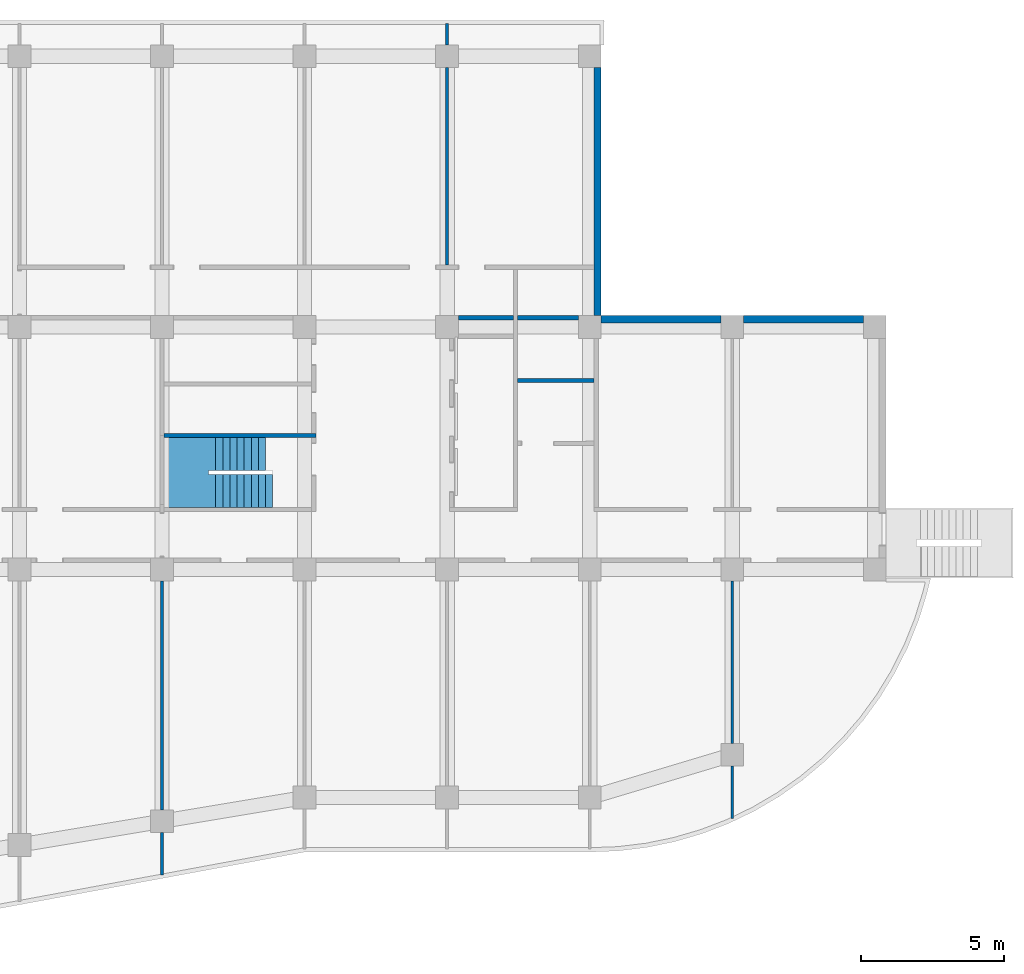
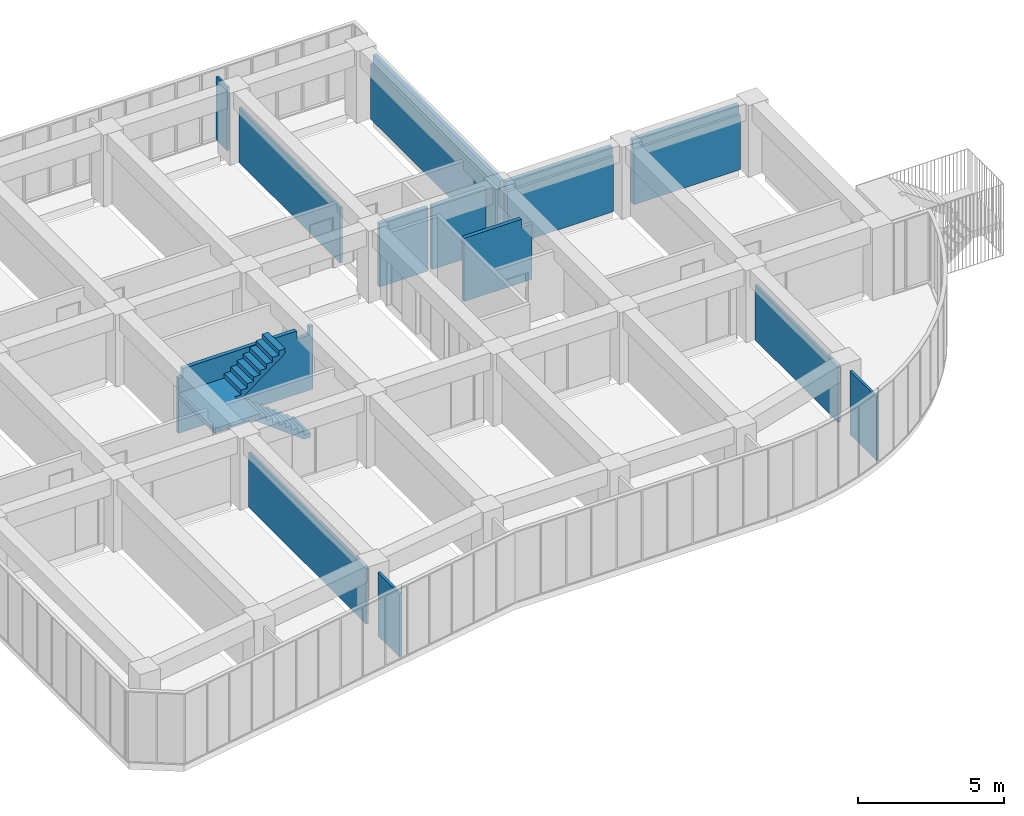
# One storey, part 5 of 5: 9 walls, 1 stair.
"""IFC2X3 building model written with IfcOpenShell, lengths in millimetres."""

from ifc_helpers import new_model, entity, si_unit, converted_unit, derived_unit, money_unit, direction, frame, origin_with_axes, place, context, subcontext, project, spatial, faceted_brep, material, material_list, type_object, element, save


model = new_model("IFC2X3")

# Units and contexts
model_context = context("Model", 3, precision=0.01, world=origin_with_axes(), true_north=direction((0.0, 1.0)))
body_context = subcontext(model_context, "Body", "Model", "MODEL_VIEW")
ifc_project = project(units=[si_unit("LENGTHUNIT", "METRE", prefix="MILLI"), si_unit("AREAUNIT", "SQUARE_METRE"), si_unit("VOLUMEUNIT", "CUBIC_METRE"), converted_unit("PLANEANGLEUNIT", "DEGREE", entity("IfcPlaneAngleMeasure", 0.0174532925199), si_unit("PLANEANGLEUNIT", "RADIAN"), dimensions=[0, 0, 0, 0, 0, 0, 0]), si_unit("SOLIDANGLEUNIT", "STERADIAN"), money_unit("JPY"), converted_unit("TIMEUNIT", "Year", entity("IfcTimeMeasure", 31556926.0), si_unit("TIMEUNIT", "SECOND"), dimensions=[0, 0, 1, 0, 0, 0, 0]), si_unit("MASSUNIT", "GRAM", prefix="KILO"), si_unit("THERMODYNAMICTEMPERATUREUNIT", "DEGREE_CELSIUS"), si_unit("LUMINOUSINTENSITYUNIT", "LUMEN"), si_unit("ENERGYUNIT", "JOULE", prefix="MEGA"), derived_unit("THERMALCONDUCTANCEUNIT", [(si_unit("POWERUNIT", "WATT"), 1), (si_unit("LENGTHUNIT", "METRE"), -1), (si_unit("THERMODYNAMICTEMPERATUREUNIT", "KELVIN"), -1)]), derived_unit("SPECIFICHEATCAPACITYUNIT", [(si_unit("ENERGYUNIT", "JOULE"), 1), (si_unit("MASSUNIT", "GRAM", prefix="KILO"), -1), (si_unit("THERMODYNAMICTEMPERATUREUNIT", "KELVIN"), -1)]), derived_unit("MASSDENSITYUNIT", [(si_unit("MASSUNIT", "GRAM", prefix="KILO"), 1), (si_unit("VOLUMEUNIT", "CUBIC_METRE"), -1)])], contexts=[model_context])

# Site, building, storey
site_placement = place(None, origin_with_axes())
site = spatial("IfcSite", under=ifc_project, at=site_placement, Name="サイト", CompositionType="ELEMENT")
building_placement = place(site_placement, origin_with_axes())
building = spatial("IfcBuilding", under=site, at=building_placement, Name="建築", CompositionType="ELEMENT")
storey_placement = place(building_placement, frame((0.0, 0.0, 9000.0), z_axis=(0.0, 0.0, 1.0), x_axis=(1.0, 0.0, 0.0)))
storey = spatial("IfcBuildingStorey", under=building, at=storey_placement, Name="4FL", CompositionType="ELEMENT", Elevation=9000.0)

# Walls
ifc_material_1 = material(Name="コンクリート")
wall_type_1 = type_object("IfcWallType", Name="コンクリート 150", PredefinedType="NOTDEFINED")
wall_1_placement = place(storey_placement, frame((10000.0, 4700.0, 0.0), z_axis=(0.0, 0.0, 1.0), x_axis=(1.0, 0.0, 0.0)))
element("IfcWall", 1, at=wall_1_placement, inside=storey, type_object=wall_type_1, material=ifc_material_1, Name="4FLW4", context=body_context, shape_type="Brep", body=[
    faceted_brep([(75.0, 75.0, 0.0), (75.0, 75.0, 2300.0), (250.0, 75.0, 2300.0), (250.0, 75.0, 2650.0), (4750.0, 75.0, 2650.0), (4750.0, 75.0, 2300.0), (5250.0, 75.0, 2300.0), (5250.0, 75.0, 2650.0), (5399.99999555, 75.0, 2650.0), (5399.99999555, 75.0, 0.0), (75.0, 0.0, 0.0), (75.0, 0.0, 2300.0), (250.0, -75.0, 2300.0), (75.0, -75.0, 2300.0), (250.0, -75.0, 2650.0), (3381.20524398, -75.0, 2650.0), (4750.0, -75.0, 2650.0), (4750.0, -75.0, 2300.0), (5250.0, -75.0, 2300.0), (5250.0, -75.0, 2650.0), (5399.99999555, -75.0, 2650.0), (5399.99999555, -75.0, 0.0), (75.0, -75.0, 0.0)], [[[0, 1, 2, 3, 4, 5, 6, 7, 8, 9]], [[10, 11, 1, 0]], [[12, 2, 1, 11, 13]], [[12, 14, 3, 2]], [[4, 3, 14, 15, 16]], [[17, 5, 4, 16]], [[18, 6, 5, 17]], [[18, 19, 7, 6]], [[8, 7, 19, 20]], [[21, 9, 8, 20]], [[9, 21, 22, 10, 0]], [[22, 13, 11, 10]], [[14, 12, 13, 22, 21, 20, 19, 18, 17, 16, 15]]]),
])
wall_2_placement = place(storey_placement, frame((22400.0, 6625.000045, 0.0), z_axis=(0.0, 0.0, 1.0), x_axis=(1.0, 0.0, 0.0)))
element("IfcWall", 2, at=wall_2_placement, inside=storey, type_object=wall_type_1, material=ifc_material_1, Name="4FLW8", context=body_context, shape_type="Brep", body=[
    faceted_brep([(75.0, 75.0, 2650.0), (2350.0, 75.0, 2650.0), (2350.0, 75.0, 2300.0), (2749.9999795, 75.0, 2300.0), (2749.9999795, 75.0, 0.0), (75.0, 75.0, 0.0), (75.0, -75.0, 2650.0), (2350.0, -75.0, 2650.0), (2350.0, -75.0, 2300.0), (2749.9999795, -75.0, 2300.0), (2749.9999795, -75.0, 0.0), (75.0, -75.0, 0.0)], [[[0, 1, 2, 3, 4, 5]], [[6, 7, 1, 0]], [[8, 2, 1, 7]], [[8, 9, 3, 2]], [[4, 3, 9, 10]], [[11, 5, 4, 10]], [[5, 11, 6, 0]], [[9, 8, 7, 6, 11, 10]]]),
])
wall_3_placement = place(storey_placement, frame((20150.0, 8825.000045, 0.0), z_axis=(0.0, 0.0, 1.0), x_axis=(1.0, 0.0, 0.0)))
element("IfcWall", 3, at=wall_3_placement, inside=storey, type_object=wall_type_1, material=ifc_material_1, Name="4FLW6", context=body_context, shape_type="Brep", body=[
    faceted_brep([(2175.0, 75.0, 0.0), (250.0, 74.999955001, 0.0), (250.0, 74.999955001, 2650.0), (2175.0, 75.0, 2650.0), (2175.0, -75.0, 0.0), (250.0, -75.0, 0.0), (250.0, -75.0, 2650.0), (2175.0, -75.0, 2650.0)], [[[0, 1, 2, 3]], [[4, 5, 1, 0]], [[5, 6, 2, 1]], [[3, 2, 6, 7]], [[7, 4, 0, 3]], [[7, 6, 5, 4]]]),
    faceted_brep([(2325.0, -75.0, 2650.0), (4450.0, -75.000042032, 2650.0), (4450.0, 74.999955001, 2650.0), (2325.0, 75.0, 2650.0), (2325.0, -75.0, 0.0), (4450.0, -75.0, 0.0), (4450.0, 74.999955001, 0.0), (2325.0, 75.0, 0.0)], [[[0, 1, 2, 3]], [[4, 5, 1, 0]], [[5, 6, 2, 1]], [[3, 2, 6, 7]], [[3, 7, 4, 0]], [[7, 6, 5, 4]]]),
])
wall_type_2 = type_object("IfcWallType", Name="コンクリート 250", PredefinedType="NOTDEFINED")
wall_4_placement = place(storey_placement, frame((30000.0, 8775.0, 0.0), z_axis=(0.0, 0.0, 1.0), x_axis=(-1.0, 0.0, 0.0)))
element("IfcWall", 4, at=wall_4_placement, inside=storey, type_object=wall_type_2, material=ifc_material_1, Name="4FLW1", context=body_context, shape_type="Brep", body=[
    faceted_brep([(4600.0, 25.0, 2650.0), (400.0, 25.0, 2650.0), (400.0, -125.0, 2650.0), (4600.0, -125.0, 2650.0), (4600.0, 25.0, 2300.0), (400.0, 25.0, 2300.0), (400.0, 125.0, 0.0), (400.0, -125.0, 0.0), (400.0, 125.0, 2300.0), (4600.0, -125.0, 0.0), (4600.0, 125.0, 0.0), (4600.0, 125.0, 2300.0)], [[[0, 1, 2, 3]], [[4, 5, 1, 0]], [[6, 7, 2, 1, 5, 8]], [[3, 2, 7, 9]], [[4, 0, 3, 9, 10, 11]], [[11, 8, 5, 4]], [[9, 7, 6, 10]], [[10, 6, 8, 11]]]),
])
wall_5_placement = place(storey_placement, frame((35274.9999654, 8774.99999002, 0.0), z_axis=(0.0, 0.0, 1.0), x_axis=(-1.0, 0.0, 0.0)))
element("IfcWall", 5, at=wall_5_placement, inside=storey, type_object=wall_type_2, material=ifc_material_1, Name="4FLW0", context=body_context, shape_type="Brep", body=[
    faceted_brep([(4874.99996543, 24.9999900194, 2650.0), (674.999965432, 24.9999900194, 2650.0), (674.999965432, -125.000009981, 2650.0), (4874.99996543, -125.000009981, 2650.0), (4874.99996543, 24.9999900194, 2300.0), (674.999965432, 24.9999900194, 2300.0), (674.999965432, 125.0, 0.0), (674.999965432, -125.000009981, 0.0), (674.999965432, 125.000010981, 2300.0), (4874.99996543, -125.000009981, 0.0), (4874.99996543, 125.0, 0.0), (4874.99996543, 125.000000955, 2300.0)], [[[0, 1, 2, 3]], [[4, 5, 1, 0]], [[6, 7, 2, 1, 5, 8]], [[3, 2, 7, 9]], [[4, 0, 3, 9, 10, 11]], [[11, 8, 5, 4]], [[9, 7, 6, 10]], [[10, 6, 8, 11]]]),
])
wall_6_placement = place(storey_placement, frame((25275.0000022, 8775.0, 0.0), z_axis=(0.0, 0.0, 1.0), x_axis=(0.0, 1.0, 0.0)))
element("IfcWall", 6, at=wall_6_placement, inside=storey, type_object=wall_type_2, material=ifc_material_1, Name="4FLW2", context=body_context, shape_type="Brep", body=[
    faceted_brep([(125.0, -125.0, 0.0), (8825.0, -124.999997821, 0.0), (8825.0, -124.999997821, 2650.0), (125.000115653, -125.000021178, 2650.0), (125.0, 125.0, 0.0), (8825.0, 125.0, 0.0), (8825.0, 25.0000021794, 2300.0), (8825.0, 25.0000021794, 2650.0), (8825.0, 125.0, 2300.0), (125.000046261, 25.0000021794, 2650.0), (125.000115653, 25.0000021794, 2300.0), (125.0, 125.0, 2300.0)], [[[0, 1, 2, 3]], [[4, 5, 1, 0]], [[6, 7, 2, 1, 5, 8]], [[3, 2, 7, 9]], [[3, 9, 10, 11, 4, 0]], [[11, 8, 5, 4]], [[9, 7, 6, 10]], [[10, 6, 8, 11]]]),
])
ifc_material_2 = material(Name="石膏ボード")
wall_type_3 = type_object("IfcWallType", Name="石膏ボード 100", PredefinedType="NOTDEFINED")
wall_7_placement = place(storey_placement, frame((20000.0, 19149.9999985, 0.0), z_axis=(0.0, 0.0, 1.0), x_axis=(0.0, -1.0, 0.0)))
element("IfcWall", 7, at=wall_7_placement, inside=storey, type_object=wall_type_3, material=ifc_material_2, Name="4FLW14", context=body_context, shape_type="Brep", body=[
    faceted_brep([(8474.99999847, 50.0, 0.0), (1549.99999847, 50.0, 0.0), (1549.99999847, 50.0, 2300.0), (8474.99999847, 50.0, 2300.0), (8474.99999847, -50.0, 0.0), (1549.99999847, -50.0, 0.0), (1549.99999847, -50.0, 2300.0), (8474.99999847, -50.0, 2300.0)], [[[0, 1, 2, 3]], [[4, 5, 1, 0]], [[5, 6, 2, 1]], [[3, 2, 6, 7]], [[4, 0, 3, 7]], [[7, 6, 5, 4]]]),
    faceted_brep([(1.41682221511e-08, -50.0, 2650.0), (749.999998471, -50.0, 2650.0), (749.999998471, 50.0, 2650.0), (-1.415756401e-08, 50.0, 2650.0), (0.0, -50.0, 0.0), (749.999998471, -50.0, 0.0), (749.999998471, 50.0, 0.0), (0.0, 50.0, 0.0)], [[[0, 1, 2, 3]], [[4, 5, 1, 0]], [[5, 6, 2, 1]], [[3, 2, 6, 7]], [[3, 7, 4, 0]], [[7, 6, 5, 4]]]),
])
wall_8_placement = place(storey_placement, frame((10000.0, 324.999998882, 0.0), z_axis=(0.0, 0.0, 1.0), x_axis=(0.0, -1.0, 0.0)))
element("IfcWall", 8, at=wall_8_placement, inside=storey, type_object=wall_type_3, material=ifc_material_2, Name="4FLW13", context=body_context, shape_type="Brep", body=[
    faceted_brep([(11049.6574785, 50.0, 0.0), (9558.33333222, 50.0, 0.0), (9558.33333222, 50.0, 2650.0), (11040.4109037, 50.0, 2650.0), (11040.4109037, 50.0, 3000.0), (11049.6574785, 50.0, 3000.0), (11049.6574785, -50.0, 0.0), (9558.33333222, -50.0, 0.0), (9558.33333222, -50.0, 2650.0), (11049.6574785, -50.0, 2650.0), (11049.6574785, 0.0, 2650.0), (11049.6574785, 0.0, 3000.0)], [[[0, 1, 2, 3, 4, 5]], [[6, 7, 1, 0]], [[7, 8, 2, 1]], [[3, 2, 8, 9, 10]], [[4, 3, 10, 11]], [[4, 11, 5]], [[0, 5, 11, 10, 9, 6]], [[9, 8, 7, 6]]]),
    faceted_brep([(8758.33333222, 50.0, 0.0), (724.999998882, 50.0, 0.0), (724.999998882, 50.0, 2300.0), (8758.33333222, 50.0, 2300.0), (8758.33333222, -50.0, 0.0), (724.999998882, -50.0, 0.0), (724.999998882, -50.0, 2300.0), (8758.33333222, -50.0, 2300.0)], [[[0, 1, 2, 3]], [[4, 5, 1, 0]], [[5, 6, 2, 1]], [[3, 2, 6, 7]], [[4, 0, 3, 7]], [[7, 6, 5, 4]]]),
])
wall_9_placement = place(storey_placement, frame((30000.0, 325.000021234, 0.0), z_axis=(0.0, 0.0, 1.0), x_axis=(0.0, -1.0, 0.0)))
element("IfcWall", 9, at=wall_9_placement, inside=storey, type_object=wall_type_3, material=ifc_material_2, Name="4FLW12", context=body_context, shape_type="Brep", body=[
    faceted_brep([(9058.01263368, 50.0, 0.0), (7225.00002123, 50.0, 0.0), (7225.00002123, 50.0, 2650.0), (9030.76295303, 50.0, 2650.0), (9030.76295303, 50.0, 3000.0), (9058.01263368, 50.0, 3000.0), (9058.01263368, -50.0, 0.0), (7225.00002123, -50.0, 0.0), (7225.00002123, -50.0, 2650.0), (9058.01263368, -50.0, 2650.0), (9058.01263368, -9.1897546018, 2650.0), (9058.01263368, -9.1897546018, 3000.0)], [[[0, 1, 2, 3, 4, 5]], [[6, 7, 1, 0]], [[7, 8, 2, 1]], [[3, 2, 8, 9, 10]], [[4, 3, 10, 11]], [[4, 11, 5]], [[0, 5, 11, 10, 9, 6]], [[9, 8, 7, 6]]]),
    faceted_brep([(6425.00002123, 50.0, 0.0), (725.000021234, 50.0, 0.0), (725.000021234, 50.0, 2300.0), (6425.00002123, 50.0, 2300.0), (6425.00002123, -50.0, 0.0), (725.000021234, -50.0, 0.0), (725.000021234, -50.0, 2300.0), (6425.00002123, -50.0, 2300.0)], [[[0, 1, 2, 3]], [[4, 5, 1, 0]], [[5, 6, 2, 1]], [[3, 2, 6, 7]], [[4, 0, 3, 7]], [[7, 6, 5, 4]]]),
])

# Stair
ifc_material_list = material_list([ifc_material_1, ifc_material_1, ifc_material_1])
stair_placement = place(storey_placement, frame((13881.205244, 3325.0, 0.0), z_axis=(0.0, 0.0, 1.0), x_axis=(1.0, 0.0, 0.0)))
element("IfcStair", 10, at=stair_placement, inside=storey, material=ifc_material_list, Name="4FLK1", ShapeType="NOTDEFINED", context=body_context, shape_type="Brep", body=[
    faceted_brep([(-2000.0, 0.0, 1487.5), (-2000.0, -1150.0, 1487.5), (-2000.0, -1150.0, 1500.0), (-2000.0, 0.0, 1500.0), (-2233.33333333, 0.0, 1487.5), (-2233.33333333, -1150.0, 1487.5), (-2000.0, -1150.0, 1312.5), (-1916.66666667, -1150.0, 1250.0), (-1833.33333333, -1150.0, 1187.5), (-1750.0, -1150.0, 1125.0), (-1666.66666667, -1150.0, 1062.5), (-1583.33333333, -1150.0, 1000.0), (-1500.0, -1150.0, 937.5), (-1416.66666667, -1150.0, 875.0), (-1333.33333333, -1150.0, 812.5), (-1250.0, -1150.0, 750.0), (-1166.66666667, -1150.0, 687.5), (-1083.33333333, -1150.0, 625.0), (-1000.0, -1150.0, 562.5), (-916.666666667, -1150.0, 500.0), (-833.333333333, -1150.0, 437.5), (-750.0, -1150.0, 375.0), (-666.666666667, -1150.0, 312.5), (-583.333333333, -1150.0, 250.0), (-500.0, -1150.0, 187.5), (-416.666666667, -1150.0, 125.0), (-333.333333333, -1150.0, 62.5), (-250.0, -1150.0, 0.0), (0.0, -1150.0, 0.0), (0.0, -1150.0, 187.5), (-250.0, -1150.0, 187.5), (-250.0, -1150.0, 375.0), (-500.0, -1150.0, 375.0), (-500.0, -1150.0, 562.5), (-750.0, -1150.0, 562.5), (-750.0, -1150.0, 750.0), (-1000.0, -1150.0, 750.0), (-1000.0, -1150.0, 937.5), (-1250.0, -1150.0, 937.5), (-1250.0, -1150.0, 1125.0), (-1500.0, -1150.0, 1125.0), (-1500.0, -1150.0, 1312.5), (-1750.0, -1150.0, 1312.5), (-1750.0, -1150.0, 1500.0), (-1750.0, 0.0, 1500.0), (-1750.0, 0.0, 1312.5), (-1500.0, 0.0, 1312.5), (-1500.0, 0.0, 1125.0), (-1250.0, 0.0, 1125.0), (-1250.0, 0.0, 937.5), (-1000.0, 0.0, 937.5), (-1000.0, 0.0, 750.0), (-750.0, 0.0, 750.0), (-750.0, 0.0, 562.5), (-500.0, 0.0, 562.5), (-500.0, 0.0, 375.0), (-250.0, 0.0, 375.0), (-250.0, 0.0, 187.5), (0.0, 0.0, 187.5), (0.0, 0.0, 0.0), (-250.0, 0.0, 0.0), (-333.333333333, 0.0, 62.5), (-416.666666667, 0.0, 125.0), (-500.0, 0.0, 187.5), (-583.333333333, 0.0, 250.0), (-666.666666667, 0.0, 312.5), (-750.0, 0.0, 375.0), (-833.333333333, 0.0, 437.5), (-916.666666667, 0.0, 500.0), (-1000.0, 0.0, 562.5), (-1083.33333333, 0.0, 625.0), (-1166.66666667, 0.0, 687.5), (-1250.0, 0.0, 750.0), (-1333.33333333, 0.0, 812.5), (-1416.66666667, 0.0, 875.0), (-1500.0, 0.0, 937.5), (-1583.33333333, 0.0, 1000.0), (-1666.66666667, 0.0, 1062.5), (-1750.0, 0.0, 1125.0), (-1833.33333333, 0.0, 1187.5), (-1916.66666667, 0.0, 1250.0), (-2000.0, 0.0, 1312.5)], [[[0, 1, 2, 3]], [[1, 0, 4, 5]], [[6, 7, 8, 9, 10, 11, 12, 13, 14, 15, 16, 17, 18, 19, 20, 21, 22, 23, 24, 25, 26, 27, 28, 29, 30, 31, 32, 33, 34, 35, 36, 37, 38, 39, 40, 41, 42, 43, 2, 1, 5]], [[44, 3, 2, 43]], [[0, 3, 44, 45, 46, 47, 48, 49, 50, 51, 52, 53, 54, 55, 56, 57, 58, 59, 60, 61, 62, 63, 64, 65, 66, 67, 68, 69, 70, 71, 72, 73, 74, 75, 76, 77, 78, 79, 80, 81, 4]], [[81, 80, 7, 6, 5, 4]], [[7, 80, 79, 8]], [[8, 79, 78, 9]], [[9, 78, 77, 10]], [[10, 77, 76, 11]], [[11, 76, 75, 12]], [[12, 75, 74, 13]], [[13, 74, 73, 14]], [[14, 73, 72, 15]], [[15, 72, 71, 16]], [[16, 71, 70, 17]], [[17, 70, 69, 18]], [[18, 69, 68, 19]], [[19, 68, 67, 20]], [[20, 67, 66, 21]], [[21, 66, 65, 22]], [[22, 65, 64, 23]], [[23, 64, 63, 24]], [[24, 63, 62, 25]], [[25, 62, 61, 26]], [[26, 61, 60, 27]], [[60, 59, 28, 27]], [[28, 59, 58, 29]], [[29, 58, 57, 30]], [[56, 31, 30, 57]], [[31, 56, 55, 32]], [[54, 33, 32, 55]], [[33, 54, 53, 34]], [[52, 35, 34, 53]], [[35, 52, 51, 36]], [[50, 37, 36, 51]], [[37, 50, 49, 38]], [[48, 39, 38, 49]], [[39, 48, 47, 40]], [[46, 41, 40, 47]], [[41, 46, 45, 42]], [[44, 43, 42, 45]]]),
    faceted_brep([(-2016.66666667, 150.0, 1687.5), (-2016.66666667, 1300.0, 1687.5), (-3806.20524398, 1300.0, 1687.5), (-3806.20524398, -1150.0, 1687.5), (-2000.0, -1150.0, 1687.5), (-2000.0, 0.0, 1687.5), (-2250.0, 0.0, 1687.5), (-2250.0, 150.0, 1687.5), (-2016.66666667, 1300.0, 1487.5), (-2016.66666667, 150.0, 1487.5), (-3806.20524398, 1300.0, 1487.5), (-3806.20524398, -1150.0, 1487.5), (-2000.0, -1150.0, 1487.5), (-2000.0, 0.0, 1487.5), (-2250.0, 0.0, 1487.5), (-2250.0, 150.0, 1487.5)], [[[0, 1, 2, 3, 4, 5, 6, 7]], [[8, 1, 0, 9]], [[1, 8, 10, 2]], [[2, 10, 11, 3]], [[3, 11, 12, 4]], [[4, 12, 13, 5]], [[5, 13, 14, 6]], [[6, 14, 15, 7]], [[9, 0, 7, 15]], [[8, 9, 15, 14, 13, 12, 11, 10]]]),
    faceted_brep([(-1916.66666667, 150.0, 1562.5), (-2000.0, 150.0, 1500.0), (-2000.0, 1300.0, 1500.0), (-1916.66666667, 1300.0, 1562.5), (-2016.66666667, 150.0, 1487.5), (-1833.33333333, 150.0, 1625.0), (-1750.0, 150.0, 1687.5), (-1666.66666667, 150.0, 1750.0), (-1583.33333333, 150.0, 1812.5), (-1500.0, 150.0, 1875.0), (-1416.66666667, 150.0, 1937.5), (-1333.33333333, 150.0, 2000.0), (-1250.0, 150.0, 2062.5), (-1166.66666667, 150.0, 2125.0), (-1083.33333333, 150.0, 2187.5), (-1000.0, 150.0, 2250.0), (-916.666666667, 150.0, 2312.5), (-833.333333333, 150.0, 2375.0), (-750.0, 150.0, 2437.5), (-666.666666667, 150.0, 2500.0), (-583.333333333, 150.0, 2562.5), (-500.0, 150.0, 2625.0), (-416.666666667, 150.0, 2687.5), (-333.333333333, 150.0, 2750.0), (-250.0, 150.0, 2812.5), (-250.0, 150.0, 3000.0), (-500.0, 150.0, 3000.0), (-500.0, 150.0, 2812.5), (-750.0, 150.0, 2812.5), (-750.0, 150.0, 2625.0), (-1000.0, 150.0, 2625.0), (-1000.0, 150.0, 2437.5), (-1250.0, 150.0, 2437.5), (-1250.0, 150.0, 2250.0), (-1500.0, 150.0, 2250.0), (-1500.0, 150.0, 2062.5), (-1750.0, 150.0, 2062.5), (-1750.0, 150.0, 1875.0), (-2000.0, 150.0, 1875.0), (-2000.0, 150.0, 1687.5), (-2016.66666667, 150.0, 1687.5), (-2016.66666667, 1300.0, 1487.5), (-2016.66666667, 1300.0, 1687.5), (-2000.0, 1300.0, 1687.5), (-2000.0, 1300.0, 1875.0), (-1750.0, 1300.0, 1875.0), (-1750.0, 1300.0, 2062.5), (-1500.0, 1300.0, 2062.5), (-1500.0, 1300.0, 2250.0), (-1250.0, 1300.0, 2250.0), (-1250.0, 1300.0, 2437.5), (-1000.0, 1300.0, 2437.5), (-1000.0, 1300.0, 2625.0), (-750.0, 1300.0, 2625.0), (-750.0, 1300.0, 2812.5), (-500.0, 1300.0, 2812.5), (-500.0, 1300.0, 3000.0), (-250.0, 1300.0, 3000.0), (-250.0, 1300.0, 2812.5), (-333.333333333, 1300.0, 2750.0), (-416.666666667, 1300.0, 2687.5), (-500.0, 1300.0, 2625.0), (-583.333333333, 1300.0, 2562.5), (-666.666666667, 1300.0, 2500.0), (-750.0, 1300.0, 2437.5), (-833.333333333, 1300.0, 2375.0), (-916.666666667, 1300.0, 2312.5), (-1000.0, 1300.0, 2250.0), (-1083.33333333, 1300.0, 2187.5), (-1166.66666667, 1300.0, 2125.0), (-1250.0, 1300.0, 2062.5), (-1333.33333333, 1300.0, 2000.0), (-1416.66666667, 1300.0, 1937.5), (-1500.0, 1300.0, 1875.0), (-1583.33333333, 1300.0, 1812.5), (-1666.66666667, 1300.0, 1750.0), (-1750.0, 1300.0, 1687.5), (-1833.33333333, 1300.0, 1625.0)], [[[0, 1, 2, 3]], [[4, 1, 0, 5, 6, 7, 8, 9, 10, 11, 12, 13, 14, 15, 16, 17, 18, 19, 20, 21, 22, 23, 24, 25, 26, 27, 28, 29, 30, 31, 32, 33, 34, 35, 36, 37, 38, 39, 40]], [[41, 2, 1, 4]], [[42, 43, 44, 45, 46, 47, 48, 49, 50, 51, 52, 53, 54, 55, 56, 57, 58, 59, 60, 61, 62, 63, 64, 65, 66, 67, 68, 69, 70, 71, 72, 73, 74, 75, 76, 77, 3, 2, 41]], [[5, 0, 3, 77]], [[6, 5, 77, 76]], [[7, 6, 76, 75]], [[8, 7, 75, 74]], [[9, 8, 74, 73]], [[10, 9, 73, 72]], [[11, 10, 72, 71]], [[12, 11, 71, 70]], [[13, 12, 70, 69]], [[14, 13, 69, 68]], [[15, 14, 68, 67]], [[16, 15, 67, 66]], [[17, 16, 66, 65]], [[18, 17, 65, 64]], [[19, 18, 64, 63]], [[20, 19, 63, 62]], [[21, 20, 62, 61]], [[22, 21, 61, 60]], [[23, 22, 60, 59]], [[23, 59, 58, 24]], [[57, 25, 24, 58]], [[56, 26, 25, 57]], [[27, 26, 56, 55]], [[55, 54, 28, 27]], [[29, 28, 54, 53]], [[53, 52, 30, 29]], [[31, 30, 52, 51]], [[51, 50, 32, 31]], [[33, 32, 50, 49]], [[49, 48, 34, 33]], [[35, 34, 48, 47]], [[47, 46, 36, 35]], [[37, 36, 46, 45]], [[45, 44, 38, 37]], [[44, 43, 39, 38]], [[40, 39, 43, 42]], [[41, 4, 40, 42]]]),
])

save(model, "model.ifc")
